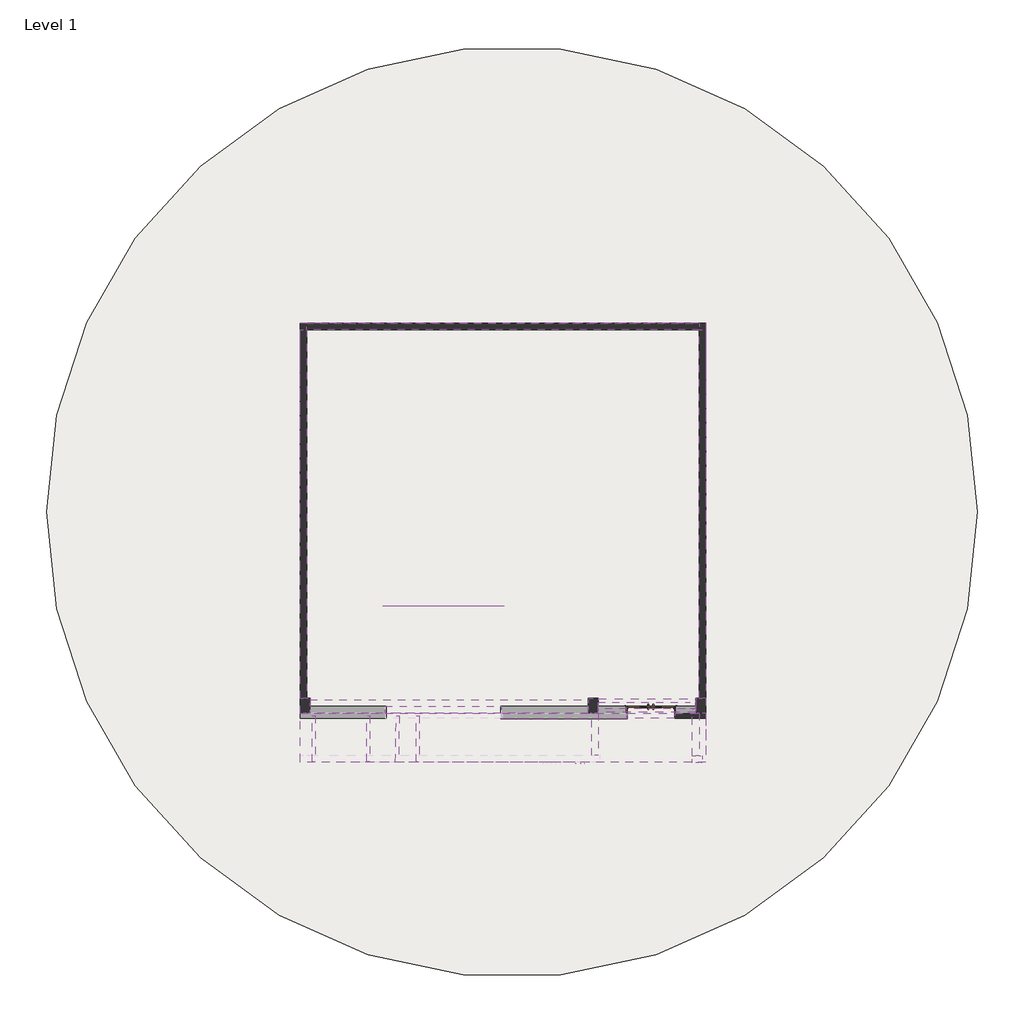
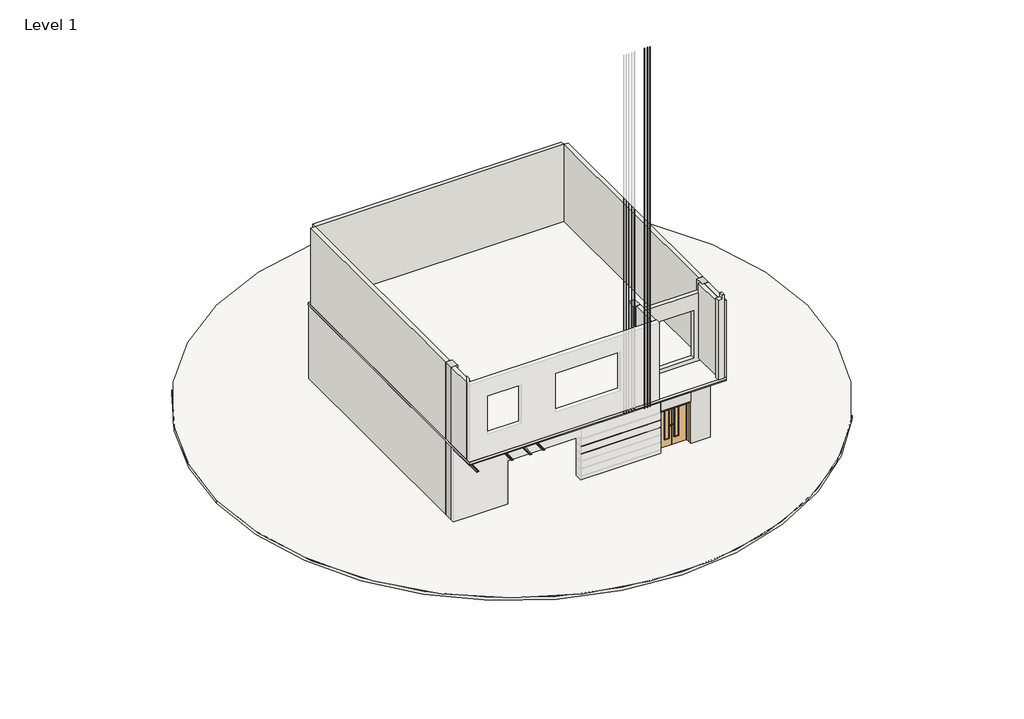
# One storey, part 3 of 3: 12 walls, 6 beams, 6 columns, 6 proxies, 5 slabs, 1 door.
"""IFC4 building model written with IfcOpenShell, lengths in millimetres."""

from ifc_helpers import new_model, si_unit, point, frame, frame_2d, origin, origin_with_axes, place, context, project, spatial, polyline, circle_curve, ellipse_curve, trimmed, segment, composite_curve, outline, extrude, faceted_brep, transform, mapped, element, save
from ifc_brep_helpers import plane_surface, cylinder_surface, advanced_brep
from components import bz1_m_profile_bz1_m_profile_bcb5b955, bz1_m_profile_bz1_m_profile_7d883e4c, bz1_m_profile_bz1_m_profile_355f199d, bz1_m_profile_bz1_m_profile_3dba807f, rear_bar_small_rear_bar_small_9124fe10, door_132_1510_x_2110mm_8a823f66

model = new_model("IFC4")

# Units and contexts
model_context = context("Model", 3, world=origin())
ifc_project = project(units=[si_unit("LENGTHUNIT", "METRE", prefix="MILLI")], contexts=[model_context])

# Site, building, storey
site = spatial("IfcSite", under=ifc_project)
building = spatial("IfcBuilding", under=site)
storey = spatial("IfcBuildingStorey", under=building, Name="Level 1", Elevation=0.0)

# Beams
placement = place(None, origin())
bz1_m_profile_bz1_m_profile_shape = bz1_m_profile_bz1_m_profile_bcb5b955(model_context)
element("IfcBeam", 1, ObjectType="BZ1-M_Profile : BZ1-M_Profile", at=placement, inside=storey, context=model_context, shape_type="MappedRepresentation", body=[
    mapped(bz1_m_profile_bz1_m_profile_shape, transform((-674.2634912, -5000.4302643, 3170.1338493), x_axis=(0.0, -1.0, 0.0), y_axis=(1.0, 0.0, 0.0), z_axis=(0.0, 0.0, 1.0))),
])
bz1_m_profile_bz1_m_profile_2_shape = bz1_m_profile_bz1_m_profile_7d883e4c(model_context)
element("IfcBeam", 2, ObjectType="BZ1-M_Profile : BZ1-M_Profile", at=placement, inside=storey, context=model_context, shape_type="MappedRepresentation", body=[
    mapped(bz1_m_profile_bz1_m_profile_2_shape, transform((-2158.1125588, -4997.9302643, 3170.1338493), x_axis=(0.0, -1.0, 0.0), y_axis=(1.0, 0.0, 0.0), z_axis=(0.0, 0.0, 1.0))),
])
bz1_m_profile_bz1_m_profile_3_shape = bz1_m_profile_bz1_m_profile_355f199d(model_context)
element("IfcBeam", 3, ObjectType="BZ1-M_Profile : BZ1-M_Profile", at=placement, inside=storey, context=model_context, shape_type="MappedRepresentation", body=[
    mapped(bz1_m_profile_bz1_m_profile_3_shape, transform((-1286.9224658, -4995.3255547, 3170.1338493), x_axis=(-0.0174524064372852, -0.9998476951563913, 0.0), y_axis=(0.9998476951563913, -0.0174524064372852, 0.0), z_axis=(0.0, 0.0, 1.0))),
])
bz1_m_profile_bz1_m_profile_4_shape = bz1_m_profile_bz1_m_profile_3dba807f(model_context)
element("IfcBeam", 4, ObjectType="BZ1-M_Profile : BZ1-M_Profile", at=placement, inside=storey, context=model_context, shape_type="MappedRepresentation", body=[
    mapped(bz1_m_profile_bz1_m_profile_4_shape, transform((-3799.9948265, -4957.9302643, 3170.1338493), x_axis=(0.0, -1.0, 0.0), y_axis=(1.0, 0.0, 0.0), z_axis=(0.0, 0.0, 1.0))),
])
element("IfcBeam", 5, ObjectType="M_Concrete-Rectangular Beam : 400 x 600mm", at=placement, inside=storey, context=model_context, shape_type="Brep", body=[
    faceted_brep([(4459.4333411, -4225.9647185, 3200.0), (4459.4333411, -4225.9647185, 3670.0), (-3910.5666589, -4225.9647185, 3670.0), (-3910.5666589, -4225.9647185, 3200.0), (4459.4333411, -3825.9647185, 3200.0), (4459.4333411, -4025.9647185, 3200.0), (-3910.5666589, -4025.9647185, 3200.0), (-3910.5666589, -3825.9647185, 3200.0), (4459.4333411, -3825.9647185, 3670.0), (-3910.5666589, -3825.9647185, 3670.0)], [[[0, 1, 2, 3]], [[4, 5, 0, 3, 6, 7]], [[8, 4, 7, 9]], [[1, 0, 5, 4, 8]], [[3, 2, 9, 7, 6]], [[2, 1, 8, 9]]]),
])
element("IfcBeam", 6, ObjectType="M_Concrete-Rectangular Beam : 400 x 600mm", at=placement, inside=storey, context=model_context, shape_type="Brep", body=[
    faceted_brep([(4759.4333411, -4200.9647185, 3200.0), (7689.4333411, -4200.9647185, 3200.0), (7689.4333411, -4200.9647185, 3670.0), (4759.4333411, -4200.9647185, 3670.0), (4759.4333411, -4025.9647185, 3200.0), (4759.4333411, -3800.9647185, 3200.0), (7689.4333411, -3800.9647185, 3200.0), (7689.4333411, -4025.9647185, 3200.0), (4759.4333411, -3800.9647185, 3670.0), (7689.4333411, -3800.9647185, 3670.0)], [[[0, 1, 2, 3]], [[0, 4, 5, 6, 7, 1]], [[6, 5, 8, 9]], [[5, 4, 0, 3, 8]], [[2, 1, 7, 6, 9]], [[3, 2, 9, 8]]]),
])

# Proxies
rear_bar_small_rear_bar_small_shape = rear_bar_small_rear_bar_small_9124fe10(model_context)
element("IfcBuildingElementProxy", 7, Name="Rear bar- Small : Rear bar - Small", ObjectType="Rear bar- Small : Rear bar - Small", at=placement, inside=storey, context=model_context, shape_type="MappedRepresentation", body=[
    mapped(rear_bar_small_rear_bar_small_shape, transform((1921.1333384, -1020.9647185, 2407.1365203), x_axis=(-1.0, 0.0, 0.0), y_axis=(0.0, 1.0, 0.0), z_axis=(0.0, 0.0, -1.0))),
])
element("IfcBuildingElementProxy", 8, Name="Reveal", ObjectType="Reveal", at=placement, inside=storey, context=model_context, shape_type="SweptSolid", body=[
    extrude(outline(composite_curve([segment(trimmed(circle_curve(frame_2d((4072.692605, -5750.9799478)), 8.0), [point((4072.692605, -5758.9799478))], [point((4072.692605, -5742.9799478))], False, "CARTESIAN"), True, "CONTINUOUS"), segment(trimmed(circle_curve(frame_2d((4072.692605, -5750.9799478)), 8.0), [point((4072.692605, -5742.9799478))], [point((4072.692605, -5758.9799478))], False, "CARTESIAN"), True, "CONTINUOUS")], self_intersect=False)), frame((0.0, 0.0, 3630.0), z_axis=(0.0, 0.0, 1.0), x_axis=(1.0, 0.0, 0.0)), (0.0, 0.0, 1.0), 18066.328216),
])
element("IfcBuildingElementProxy", 9, Name="Reveal", ObjectType="Reveal", at=placement, inside=storey, context=model_context, shape_type="SweptSolid", body=[
    extrude(outline(composite_curve([segment(trimmed(circle_curve(frame_2d((4219.7817397, -5750.9799478)), 8.0), [point((4219.7817397, -5758.9799478))], [point((4219.7817397, -5742.9799478))], False, "CARTESIAN"), True, "CONTINUOUS"), segment(trimmed(circle_curve(frame_2d((4219.7817397, -5750.9799478)), 8.0), [point((4219.7817397, -5742.9799478))], [point((4219.7817397, -5758.9799478))], False, "CARTESIAN"), True, "CONTINUOUS")], self_intersect=False)), frame((0.0, 0.0, 3630.0), z_axis=(0.0, 0.0, 1.0), x_axis=(1.0, 0.0, 0.0)), (0.0, 0.0, 1.0), 18066.328216),
])
element("IfcBuildingElementProxy", 10, Name="Reveal", ObjectType="Reveal", at=placement, inside=storey, context=model_context, shape_type="SweptSolid", body=[
    extrude(outline(composite_curve([segment(trimmed(circle_curve(frame_2d((4338.3531683, -5750.9799478)), 8.0), [point((4338.3531683, -5758.9799478))], [point((4338.3531683, -5742.9799478))], False, "CARTESIAN"), True, "CONTINUOUS"), segment(trimmed(circle_curve(frame_2d((4338.3531683, -5750.9799478)), 8.0), [point((4338.3531683, -5742.9799478))], [point((4338.3531683, -5758.9799478))], False, "CARTESIAN"), True, "CONTINUOUS")], self_intersect=False)), frame((0.0, 0.0, 3630.0), z_axis=(0.0, 0.0, 1.0), x_axis=(1.0, 0.0, 0.0)), (0.0, 0.0, 1.0), 18066.328216),
])
element("IfcBuildingElementProxy", 11, Name="Reveal", ObjectType="Reveal", at=placement, inside=storey, context=model_context, shape_type="AdvancedBrep", body=[
    advanced_brep(
    [(5634.5761983, -4225.9647185, 1301.5626843), (5618.5761983, -4225.9647185, 1301.5626843), (5634.5761983, -4395.9647185, 1301.5626843), (5618.5761983, -4379.9647185, 1301.5626843), (1826.4333411, -4395.9647185, 1301.5626843), (1842.4333411, -4379.9647185, 1301.5626843)],
    [
        (0, 1, circle_curve(frame((5626.5761983, -4225.9647185, 1301.5626843), z_axis=(0.0, 1.0, 0.0), x_axis=(-1.0, 0.0, 0.0)), 8.0)),
        (1, 0, circle_curve(frame((5626.5761983, -4225.9647185, 1301.5626843), z_axis=(0.0, 1.0, 0.0), x_axis=(-1.0, 0.0, 0.0)), 8.0)),
        (0, 2),
        (2, 3, ellipse_curve(frame((5626.5761983, -4387.9647185, 1301.5626843), z_axis=(0.7071067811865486, 0.7071067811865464, 0.0), x_axis=(-0.7071067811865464, 0.7071067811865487, 0.0)), 11.3137085, 8.0)),
        (3, 1),
        (3, 2, ellipse_curve(frame((5626.5761983, -4387.9647185, 1301.5626843), z_axis=(0.7071067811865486, 0.7071067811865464, 0.0), x_axis=(-0.7071067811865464, 0.7071067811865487, 0.0)), 11.3137085, 8.0)),
        (4, 5, ellipse_curve(frame((1834.4333411, -4387.9647185, 1301.5626843), z_axis=(-0.7071067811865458, 0.7071067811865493, 0.0), x_axis=(0.7071067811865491, 0.7071067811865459, 0.0)), 11.3137085, 8.0)),
        (5, 4, ellipse_curve(frame((1834.4333411, -4387.9647185, 1301.5626843), z_axis=(-0.7071067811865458, 0.7071067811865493, 0.0), x_axis=(0.7071067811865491, 0.7071067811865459, 0.0)), 11.3137085, 8.0)),
        (2, 4),
        (5, 3),
    ],
    [
        plane_surface(frame((5549.4333411, -4225.9647185, 0.0), z_axis=(0.0, 1.0, 0.0), x_axis=(1.0, 0.0, 0.0))),
        cylinder_surface(frame((5626.5761983, -4225.9647185, 1301.5626843), z_axis=(0.0, 1.0, 0.0), x_axis=(-1.0, 0.0, 0.0)), 8.0),
        plane_surface(frame((1834.4333411, -4387.9647185, 1605.3), z_axis=(-0.7071067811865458, 0.7071067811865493, 0.0), x_axis=(0.7071067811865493, 0.7071067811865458, 0.0))),
        cylinder_surface(frame((5626.5761983, -4387.9647185, 1301.5626843), z_axis=(1.0, 0.0, 0.0), x_axis=(0.0, 1.0, 0.0)), 8.0),
    ],
    [
        (0, [[1, 2]]),
        (1, [[-1, 3, 4, 5]]),
        (1, [[-2, -5, 6, -3]]),
        (2, [[7, 8]]),
        (3, [[-4, 9, -8, 10]]),
        (3, [[-6, -10, -7, -9]]),
    ],
),
])
element("IfcBuildingElementProxy", 12, Name="Reveal", ObjectType="Reveal", at=placement, inside=storey, context=model_context, shape_type="AdvancedBrep", body=[
    advanced_brep(
    [(5634.5761983, -4225.9647185, 1675.0626843), (5618.5761983, -4225.9647185, 1675.0626843), (5634.5761983, -4395.9647185, 1675.0626843), (5618.5761983, -4379.9647185, 1675.0626843), (1826.4333411, -4395.9647185, 1675.0626843), (1842.4333411, -4379.9647185, 1675.0626843)],
    [
        (0, 1, circle_curve(frame((5626.5761983, -4225.9647185, 1675.0626843), z_axis=(0.0, 1.0, 0.0), x_axis=(-1.0, 0.0, 0.0)), 8.0)),
        (1, 0, circle_curve(frame((5626.5761983, -4225.9647185, 1675.0626843), z_axis=(0.0, 1.0, 0.0), x_axis=(-1.0, 0.0, 0.0)), 8.0)),
        (0, 2),
        (2, 3, ellipse_curve(frame((5626.5761983, -4387.9647185, 1675.0626843), z_axis=(0.7071067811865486, 0.7071067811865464, 0.0), x_axis=(-0.7071067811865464, 0.7071067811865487, 0.0)), 11.3137085, 8.0)),
        (3, 1),
        (3, 2, ellipse_curve(frame((5626.5761983, -4387.9647185, 1675.0626843), z_axis=(0.7071067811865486, 0.7071067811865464, 0.0), x_axis=(-0.7071067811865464, 0.7071067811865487, 0.0)), 11.3137085, 8.0)),
        (4, 5, ellipse_curve(frame((1834.4333411, -4387.9647185, 1675.0626843), z_axis=(-0.7071067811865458, 0.7071067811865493, 0.0), x_axis=(0.7071067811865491, 0.7071067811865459, 0.0)), 11.3137085, 8.0)),
        (5, 4, ellipse_curve(frame((1834.4333411, -4387.9647185, 1675.0626843), z_axis=(-0.7071067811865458, 0.7071067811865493, 0.0), x_axis=(0.7071067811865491, 0.7071067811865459, 0.0)), 11.3137085, 8.0)),
        (2, 4),
        (5, 3),
    ],
    [
        plane_surface(frame((5549.4333411, -4225.9647185, 0.0), z_axis=(0.0, 1.0, 0.0), x_axis=(1.0, 0.0, 0.0))),
        cylinder_surface(frame((5626.5761983, -4225.9647185, 1675.0626843), z_axis=(0.0, 1.0, 0.0), x_axis=(-1.0, 0.0, 0.0)), 8.0),
        plane_surface(frame((1834.4333411, -4387.9647185, 1978.8), z_axis=(-0.7071067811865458, 0.7071067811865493, 0.0), x_axis=(0.7071067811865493, 0.7071067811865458, 0.0))),
        cylinder_surface(frame((5626.5761983, -4387.9647185, 1675.0626843), z_axis=(1.0, 0.0, 0.0), x_axis=(0.0, 1.0, 0.0)), 8.0),
    ],
    [
        (0, [[1, 2]]),
        (1, [[-1, 3, 4, 5]]),
        (1, [[-2, -5, 6, -3]]),
        (2, [[7, 8]]),
        (3, [[-4, 9, -8, 10]]),
        (3, [[-6, -10, -7, -9]]),
    ],
),
])

# Columns
element("IfcColumn", 13, ObjectType="M_Concrete-Rectangular-Column : 300 x 450mm", at=placement, inside=storey, context=model_context, shape_type="Brep", body=[
    faceted_brep([(4759.4333411, -3775.9647185, 3800.0), (4759.4333411, -3900.9647185, 3800.0), (4759.4333411, -4100.9647185, 3800.0), (4759.4333411, -4225.9647185, 3800.0), (4559.4333411, -4225.9647185, 3800.0), (4459.4333411, -4225.9647185, 3800.0), (4459.4333411, -3775.9647185, 3800.0), (4759.4333411, -3775.9647185, 7670.0), (4759.4333411, -4225.9647185, 7670.0), (4559.4333411, -4225.9647185, 7670.0), (4459.4333411, -4225.9647185, 7670.0), (4459.4333411, -3775.9647185, 7670.0)], [[[0, 1, 2, 3, 4, 5, 6]], [[7, 8, 3, 2, 1, 0]], [[8, 9, 10, 5, 4, 3]], [[10, 11, 6, 5]], [[11, 7, 0, 6]], [[7, 11, 10, 9, 8]]]),
])
element("IfcColumn", 14, ObjectType="M_Concrete-Rectangular-Column : 300 x 450mm", at=placement, inside=storey, context=model_context, shape_type="Brep", body=[
    faceted_brep([(-3910.5666589, -3775.9647185, 3800.0), (-3910.5666589, -4225.9647185, 3800.0), (-4010.5666589, -4225.9647185, 3800.0), (-4210.5666589, -4225.9647185, 3800.0), (-4210.5666589, -3775.9647185, 3800.0), (-4010.5666589, -3775.9647185, 3800.0), (-3910.5666589, -3775.9647185, 7670.0), (-3910.5666589, -3800.9647185, 7670.0), (-3910.5666589, -4200.9647185, 7670.0), (-3910.5666589, -4225.9647185, 7670.0), (-4010.5666589, -4225.9647185, 7670.0), (-4210.5666589, -4225.9647185, 7670.0), (-4210.5666589, -3775.9647185, 7670.0), (-4010.5666589, -3775.9647185, 7670.0)], [[[0, 1, 2, 3, 4, 5]], [[6, 7, 8, 9, 1, 0]], [[9, 10, 11, 3, 2, 1]], [[11, 12, 4, 3]], [[12, 13, 6, 0, 5, 4]], [[6, 13, 12, 11, 10, 9, 8, 7]]]),
])
element("IfcColumn", 15, ObjectType="M_Concrete-Rectangular-Column : 300 x 450mm", at=placement, inside=storey, context=model_context, shape_type="Brep", body=[
    faceted_brep([(7989.4333411, -3775.9647185, 3800.0), (7989.4333411, -4225.9647185, 3800.0), (7789.4333411, -4225.9647185, 3800.0), (7689.4333411, -4225.9647185, 3800.0), (7689.4333411, -4100.9647185, 3800.0), (7689.4333411, -3900.9647185, 3800.0), (7689.4333411, -3775.9647185, 3800.0), (7789.4333411, -3775.9647185, 3800.0), (7989.4333411, -3775.9647185, 7670.0), (7989.4333411, -4225.9647185, 7670.0), (7789.4333411, -4225.9647185, 7670.0), (7689.4333411, -4225.9647185, 7670.0), (7689.4333411, -4225.9647185, 3926.0608555), (7689.4333411, -4200.9647185, 7670.0), (7689.4333411, -4100.9647185, 7670.0), (7689.4333411, -3800.9647185, 7670.0), (7689.4333411, -3775.9647185, 7670.0), (7789.4333411, -3775.9647185, 7670.0)], [[[0, 1, 2, 3, 4, 5, 6, 7]], [[8, 9, 1, 0]], [[9, 10, 11, 12, 3, 2, 1]], [[11, 13, 14, 15, 16, 6, 5, 4, 3, 12]], [[16, 17, 8, 0, 7, 6]], [[8, 17, 16, 15, 14, 13, 11, 10, 9]]]),
])
element("IfcColumn", 16, ObjectType="M_Concrete-Rectangular-Column : 300 x 450mm", at=placement, inside=storey, context=model_context, shape_type="Brep", body=[
    faceted_brep([(4759.4333411, -3775.9647185, 0.0), (4759.4333411, -4025.9647185, 0.0), (4759.4333411, -4225.9647185, 0.0), (4459.4333411, -4225.9647185, 0.0), (4459.4333411, -4025.9647185, 0.0), (4459.4333411, -3775.9647185, 0.0), (4759.4333411, -3775.9647185, 3670.0), (4759.4333411, -4200.9647185, 3670.0), (4759.4333411, -4225.9647185, 3670.0), (4459.4333411, -4225.9647185, 3670.0), (4459.4333411, -4225.9647185, 3200.0), (4459.4333411, -3775.9647185, 3670.0)], [[[0, 1, 2, 3, 4, 5]], [[6, 7, 8, 2, 1, 0]], [[8, 9, 10, 3, 2]], [[9, 11, 5, 4, 3, 10]], [[11, 6, 0, 5]], [[6, 11, 9, 8, 7]]]),
])
element("IfcColumn", 17, ObjectType="M_Concrete-Rectangular-Column : 300 x 450mm", at=placement, inside=storey, context=model_context, shape_type="Brep", body=[
    faceted_brep([(-3910.5666589, -3775.9647185, 0.0), (-3910.5666589, -4025.9647185, 0.0), (-3910.5666589, -4225.9647185, 0.0), (-4210.5666589, -4225.9647185, 0.0), (-4210.5666589, -3775.9647185, 0.0), (-4010.5666589, -3775.9647185, 0.0), (-3910.5666589, -3775.9647185, 3670.0), (-3910.5666589, -3825.9647185, 3670.0), (-3910.5666589, -4225.9647185, 3670.0), (-3910.5666589, -4225.9647185, 3200.0), (-4210.5666589, -4225.9647185, 3670.0), (-4210.5666589, -3775.9647185, 3670.0), (-4010.5666589, -3775.9647185, 3670.0)], [[[0, 1, 2, 3, 4, 5]], [[6, 7, 8, 9, 2, 1, 0]], [[8, 10, 3, 2, 9]], [[10, 11, 4, 3]], [[11, 12, 6, 0, 5, 4]], [[6, 12, 11, 10, 8, 7]]]),
])
element("IfcColumn", 18, ObjectType="M_Concrete-Rectangular-Column : 300 x 450mm", at=placement, inside=storey, context=model_context, shape_type="Brep", body=[
    faceted_brep([(7989.4333411, -3775.9647185, 0.0), (7989.4333411, -4225.9647185, 0.0), (7689.4333411, -4225.9647185, 0.0), (7689.4333411, -4025.9647185, 0.0), (7689.4333411, -3775.9647185, 0.0), (7789.4333411, -3775.9647185, 0.0), (7989.4333411, -3775.9647185, 3670.0), (7989.4333411, -4225.9647185, 3670.0), (7689.4333411, -4225.9647185, 3670.0), (7689.4333411, -4200.9647185, 3670.0), (7689.4333411, -3800.9647185, 3670.0), (7689.4333411, -3775.9647185, 3670.0), (7789.4333411, -3775.9647185, 3670.0)], [[[0, 1, 2, 3, 4, 5]], [[6, 7, 1, 0]], [[7, 8, 2, 1]], [[8, 9, 10, 11, 4, 3, 2]], [[11, 12, 6, 0, 5, 4]], [[6, 12, 11, 10, 9, 8, 7]]]),
])

# Door
door_132_1510_x_2110mm_shape = door_132_1510_x_2110mm_8a823f66(model_context)
element("IfcDoor", 19, ObjectType="Door (132) : 1510 x 2110mm", at=placement, inside=storey, context=model_context, shape_type="MappedRepresentation", body=[
    mapped(door_132_1510_x_2110mm_shape, transform((6339.4333411, -4125.9647185, 0.0), x_axis=(1.0, 0.0, 0.0), y_axis=(0.0, 1.0, 0.0), z_axis=(0.0, 0.0, 1.0))),
])

# Slabs
element("IfcSlab", 20, ObjectType="BZ1_FNSH_White stucoo_3cm", at=placement, inside=storey, context=model_context, shape_type="Brep", body=[
    faceted_brep([(-4210.5666589, -4225.9647185, 3630.0), (-1635.5666589, -4225.9647185, 3630.0), (1864.4333411, -4225.9647185, 3630.0), (5626.5761983, -4225.9647185, 3630.0), (7059.4333411, -4225.9647185, 3630.0), (7989.4333411, -4225.9647185, 3630.0), (7989.4333411, -4387.9647185, 3630.0), (7989.4333411, -5700.9647185, 3630.0), (4474.4333411, -5700.9647185, 3630.0), (2939.4333411, -5700.9647185, 3630.0), (-4210.5666589, -5700.9647185, 3630.0), (-4210.5666589, -4225.9647185, 3670.0), (-4210.5666589, -5700.9647185, 3670.0), (7989.4333411, -5700.9647185, 3670.0), (7989.4333411, -4225.9647185, 3670.0)], [[[0, 1, 2, 3, 4, 5, 6, 7, 8, 9, 10]], [[11, 12, 13, 14]], [[5, 4, 3, 2, 1, 0, 11, 14]], [[7, 6, 5, 14, 13]], [[10, 9, 8, 7, 13, 12]], [[0, 10, 12, 11]]]),
])
element("IfcSlab", 21, ObjectType="BZ1_FNSH_White stucoo_3cm", at=placement, inside=storey, context=model_context, shape_type="SweptSolid", body=[
    extrude(outline(polyline([(5626.5761983, -4225.9647185), (7059.4333411, -4225.9647185), (7059.4333411, -4387.9647185), (5626.5761983, -4387.9647185), (5626.5761983, -4225.9647185)])), frame((0.0, 0.0, 2070.0), z_axis=(0.0, 0.0, 1.0), x_axis=(1.0, 0.0, 0.0)), (0.0, 0.0, 1.0), 40.0),
])
element("IfcSlab", 22, ObjectType="BZ1_FNSH_White stucoo_3cm", at=placement, inside=storey, context=model_context, shape_type="Brep", body=[
    faceted_brep([(-1650.5666589, -4025.9647185, 2160.0), (1834.4333411, -4025.9647185, 2160.0), (1834.4333411, -4225.9647185, 2160.0), (-1620.5666589, -4225.9647185, 2160.0), (-1650.5666589, -4225.9647185, 2160.0), (-1650.5666589, -4025.9647185, 2200.0), (-1650.5666589, -4225.9647185, 2200.0), (1834.4333411, -4225.9647185, 2200.0), (1834.4333411, -4025.9647185, 2200.0)], [[[0, 1, 2, 3, 4]], [[5, 6, 7, 8]], [[1, 0, 5, 8]], [[2, 1, 8, 7]], [[4, 3, 2, 7, 6]], [[0, 4, 6, 5]]]),
])
element("IfcSlab", 23, ObjectType="BZ1_Slab_Concrete_130", at=placement, inside=storey, context=model_context, shape_type="Brep", body=[
    faceted_brep([(7989.4333411, -5700.9647185, 3670.0), (-4210.5666589, -5700.9647185, 3670.0), (-4210.5666589, 7514.0352815, 3670.0), (7989.4333411, 7514.0352815, 3670.0), (7989.4333411, -5700.9647185, 3800.0), (7989.4333411, -4225.9647185, 3800.0), (7989.4333411, -3775.9647185, 3800.0), (7989.4333411, 7514.0352815, 3800.0), (-4210.5666589, 7514.0352815, 3800.0), (-4210.5666589, -3775.9647185, 3800.0), (-4210.5666589, -4225.9647185, 3800.0), (-4210.5666589, -5700.9647185, 3800.0)], [[[0, 1, 2, 3]], [[4, 5, 6, 7, 8, 9, 10, 11]], [[1, 0, 4, 11]], [[2, 1, 11, 10, 9, 8]], [[3, 2, 8, 7]], [[0, 3, 7, 6, 5, 4]]]),
])
element("IfcSlab", 24, ObjectType="Generic 150mm", at=placement, inside=storey, context=model_context, shape_type="SweptSolid", body=[
    extrude(outline(composite_curve([segment(trimmed(circle_curve(frame_2d((2163.0728689, 1820.5643673)), 14000.0), [point((-11836.9271311, 1820.5643673))], [point((16163.0728689, 1820.5643673))], False, "CARTESIAN"), True, "CONTINUOUS"), segment(trimmed(circle_curve(frame_2d((2163.0728689, 1820.5643673)), 14000.0), [point((16163.0728689, 1820.5643673))], [point((-11836.9271311, 1820.5643673))], False, "CARTESIAN"), True, "CONTINUOUS")], self_intersect=False)), frame((0.0, 0.0, -150.0), z_axis=(0.0, 0.0, 1.0), x_axis=(1.0, 0.0, 0.0)), (0.0, 0.0, 1.0), 150.0),
])

# Walls
element("IfcWall", 25, ObjectType="BZ1_fnsh_EIFS-16cm", at=placement, inside=storey, context=model_context, shape_type="Brep", body=[
    faceted_brep([(7989.4333411, -4225.9647185, 0.0), (7059.4333411, -4225.9647185, 0.0), (7059.4333411, -4225.9647185, 2070.0), (7059.4333411, -4225.9647185, 2110.0), (7059.4333411, -4225.9647185, 3630.0), (7989.4333411, -4225.9647185, 3630.0), (7059.4333411, -4387.9647185, 0.0), (7989.4333411, -4387.9647185, 0.0), (7989.4333411, -4387.9647185, 3630.0), (7059.4333411, -4387.9647185, 3630.0), (7059.4333411, -4387.9647185, 2110.0), (7059.4333411, -4387.9647185, 2070.0)], [[[0, 1, 2, 3, 4, 5]], [[6, 7, 8, 9, 10, 11]], [[1, 0, 7, 6]], [[1, 6, 11, 10, 9, 4, 3, 2]], [[7, 0, 5, 8]], [[5, 4, 9, 8]]]),
])
element("IfcWall", 26, ObjectType="BZ1_fnsh_EIFS-16cm", at=placement, inside=storey, context=model_context, shape_type="SweptSolid", body=[
    extrude(outline(polyline([(5626.5761983, -4225.9647185), (7059.4333411, -4225.9647185), (7059.4333411, -4387.9647185), (5626.5761983, -4387.9647185), (5626.5761983, -4225.9647185)])), frame((0.0, 0.0, 2110.0), z_axis=(0.0, 0.0, 1.0), x_axis=(1.0, 0.0, 0.0)), (0.0, 0.0, 1.0), 1520.0),
])
element("IfcWall", 27, ObjectType="BZ1-Core-Block-20cm", at=placement, inside=storey, context=model_context, shape_type="Brep", body=[
    faceted_brep([(-4010.5666589, -5500.9647185, 7670.0), (-4010.5666589, -5500.9647185, 3800.0), (-4010.5666589, -4225.9647185, 3800.0), (-4010.5666589, -4225.9647185, 7670.0), (-4210.5666589, -5500.9647185, 3800.0), (-4210.5666589, -5500.9647185, 7670.0), (-4210.5666589, -4225.9647185, 7670.0), (-4210.5666589, -4225.9647185, 3800.0), (-4200.5666589, -5500.9647185, 7670.0)], [[[0, 1, 2, 3]], [[4, 5, 6, 7]], [[1, 4, 7, 2]], [[3, 2, 7, 6]], [[4, 1, 0, 8, 5]], [[5, 8, 0, 3, 6]]]),
    faceted_brep([(-4010.5666589, 7299.0352815, 3800.0), (-4010.5666589, 7299.0352815, 4000.0), (-4010.5666589, 7299.0352815, 7180.0), (-4010.5666589, 7299.0352815, 7670.0), (-4010.5666589, -3775.9647185, 7670.0), (-4010.5666589, -3775.9647185, 7180.0), (-4010.5666589, -3775.9647185, 4000.0), (-4010.5666589, -3775.9647185, 3800.0), (-4210.5666589, 7299.0352815, 7670.0), (-4210.5666589, 7299.0352815, 3800.0), (-4210.5666589, -3775.9647185, 3800.0), (-4210.5666589, -3775.9647185, 7670.0)], [[[0, 1, 2, 3, 4, 5, 6, 7]], [[8, 9, 10, 11]], [[9, 0, 7, 10]], [[7, 6, 5, 4, 11, 10]], [[0, 9, 8, 3, 2, 1]], [[3, 8, 11, 4]]]),
])
element("IfcWall", 28, ObjectType="BZ1-Core-Block-20cm", at=placement, inside=storey, context=model_context, shape_type="SweptSolid", body=[
    extrude(outline(polyline([(-4010.5666589, 7499.0352815), (7789.4333411, 7499.0352815), (7789.4333411, 7299.0352815), (-4010.5666589, 7299.0352815), (-4010.5666589, 7499.0352815)])), frame((0.0, 0.0, 3800.0), z_axis=(0.0, 0.0, 1.0), x_axis=(1.0, 0.0, 0.0)), (0.0, 0.0, 1.0), 3870.0),
])
element("IfcWall", 29, ObjectType="BZ1-Core-Block-20cm", at=placement, inside=storey, context=model_context, shape_type="Brep", body=[
    faceted_brep([(-4010.5666589, 7499.0352815, 0.0), (-4010.5666589, 7499.0352815, 3670.0), (-4010.5666589, 7299.0352815, 3670.0), (-4010.5666589, -3775.9647185, 3670.0), (-4010.5666589, -3775.9647185, 0.0), (-4010.5666589, 7299.0352815, 0.0), (-4210.5666589, 7499.0352815, 3670.0), (-4210.5666589, 7499.0352815, 0.0), (-4210.5666589, -3775.9647185, 0.0), (-4210.5666589, -3775.9647185, 3670.0)], [[[0, 1, 2, 3, 4, 5]], [[6, 7, 8, 9]], [[7, 0, 5, 4, 8]], [[1, 6, 9, 3, 2]], [[4, 3, 9, 8]], [[0, 7, 6, 1]]]),
])
element("IfcWall", 30, ObjectType="BZ1-Core-Block-20cm", at=placement, inside=storey, context=model_context, shape_type="Brep", body=[
    faceted_brep([(7989.4333411, 7499.0352815, 0.0), (7989.4333411, 7499.0352815, 3670.0), (7989.4333411, -3775.9647185, 3670.0), (7989.4333411, -3775.9647185, 0.0), (7789.4333411, 7499.0352815, 3670.0), (7789.4333411, 7499.0352815, 0.0), (7789.4333411, 7299.0352815, 0.0), (7789.4333411, -3775.9647185, 0.0), (7789.4333411, -3775.9647185, 3670.0), (7789.4333411, 7299.0352815, 3670.0)], [[[0, 1, 2, 3]], [[4, 5, 6, 7, 8, 9]], [[5, 0, 3, 7, 6]], [[1, 4, 9, 8, 2]], [[3, 2, 8, 7]], [[0, 5, 4, 1]]]),
])
element("IfcWall", 31, ObjectType="BZ1-Core-Block-20cm", at=placement, inside=storey, context=model_context, shape_type="SweptSolid", body=[
    extrude(outline(polyline([(-4010.5666589, 7499.0352815), (7789.4333411, 7499.0352815), (7789.4333411, 7299.0352815), (-4010.5666589, 7299.0352815), (-4010.5666589, 7499.0352815)])), origin_with_axes(), (0.0, 0.0, 1.0), 3670.0),
])
element("IfcWall", 32, ObjectType="BZ1-Core-Block-20cm", at=placement, inside=storey, context=model_context, shape_type="Brep", body=[
    faceted_brep([(4759.4333411, -5500.9647185, 7670.0), (4759.4333411, -5500.9647185, 3800.0), (4759.4333411, -4225.9647185, 3800.0), (4759.4333411, -4225.9647185, 7670.0), (4559.4333411, -5500.9647185, 3800.0), (4559.4333411, -5500.9647185, 7670.0), (4559.4333411, -4225.9647185, 7670.0), (4559.4333411, -4225.9647185, 7300.0), (4559.4333411, -4225.9647185, 4000.0), (4559.4333411, -4225.9647185, 3800.0)], [[[0, 1, 2, 3]], [[4, 5, 6, 7, 8, 9]], [[1, 4, 9, 2]], [[5, 0, 3, 6]], [[3, 2, 9, 8, 7, 6]], [[1, 0, 5, 4]]]),
])
element("IfcWall", 33, ObjectType="BZ1-Core-Block-20cm", at=placement, inside=storey, context=model_context, shape_type="Brep", body=[
    faceted_brep([(4759.4333411, -4100.9647185, 3800.0), (7689.4333411, -4100.9647185, 3800.0), (7689.4333411, -4100.9647185, 3926.0608555), (7689.4333411, -4100.9647185, 7200.0), (4759.4333411, -4100.9647185, 7200.0), (5174.4333411, -4100.9647185, 4000.0), (5174.4333411, -4100.9647185, 6400.0), (7374.4333411, -4100.9647185, 6400.0), (7374.4333411, -4100.9647185, 4000.0), (7689.4333411, -3900.9647185, 3800.0), (4759.4333411, -3900.9647185, 3800.0), (4759.4333411, -3900.9647185, 7200.0), (7689.4333411, -3900.9647185, 7200.0), (7689.4333411, -3900.9647185, 4000.0), (5174.4333411, -3900.9647185, 6400.0), (5174.4333411, -3900.9647185, 4000.0), (7374.4333411, -3900.9647185, 4000.0), (7374.4333411, -3900.9647185, 6400.0)], [[[0, 1, 2, 3, 4], [5, 6, 7, 8]], [[9, 10, 11, 12, 13], [14, 15, 16, 17]], [[9, 1, 0, 10]], [[5, 15, 14, 6]], [[6, 14, 17, 7]], [[16, 8, 7, 17]], [[15, 5, 8, 16]], [[1, 9, 13, 12, 3, 2]], [[10, 0, 4, 11]], [[4, 3, 12, 11]]]),
])
element("IfcWall", 34, ObjectType="BZ1-Core-Block-20cm", at=placement, inside=storey, context=model_context, shape_type="Brep", body=[
    faceted_brep([(7989.4333411, 7299.0352815, 3800.0), (7989.4333411, 7299.0352815, 7670.0), (7989.4333411, -3775.9647185, 7670.0), (7989.4333411, -3775.9647185, 3800.0), (7789.4333411, 7299.0352815, 7670.0), (7789.4333411, 7299.0352815, 3800.0), (7789.4333411, -3775.9647185, 3800.0), (7789.4333411, -3775.9647185, 7670.0)], [[[0, 1, 2, 3]], [[4, 5, 6, 7]], [[5, 0, 3, 6]], [[1, 4, 7, 2]], [[3, 2, 7, 6]], [[0, 5, 4, 1]]]),
    faceted_brep([(7989.4333411, -5700.9647185, 7670.0), (7989.4333411, -5700.9647185, 3800.0), (7989.4333411, -4225.9647185, 3800.0), (7989.4333411, -4225.9647185, 7670.0), (7789.4333411, -5700.9647185, 3800.0), (7789.4333411, -5700.9647185, 7670.0), (7789.4333411, -5515.9647185, 7670.0), (7789.4333411, -4225.9647185, 7670.0), (7789.4333411, -4225.9647185, 3926.0608555), (7789.4333411, -4225.9647185, 3800.0)], [[[0, 1, 2, 3]], [[4, 5, 6, 7, 8, 9]], [[1, 4, 9, 2]], [[5, 0, 3, 7, 6]], [[3, 2, 9, 8, 7]], [[4, 1, 0, 5]]]),
])
element("IfcWall", 35, ObjectType="BZ1-Core-Block-20cm", at=placement, inside=storey, context=model_context, shape_type="Brep", body=[
    faceted_brep([(7889.4333411, -5515.9647185, 3800.0), (7589.4333411, -5515.9647185, 3800.0), (7589.4333411, -5515.9647185, 3926.0608555), (7589.4333411, -5515.9647185, 7670.0), (7589.4333411, -5515.9647185, 7800.0), (7789.4333411, -5515.9647185, 7800.0), (7789.4333411, -5515.9647185, 8000.0), (7889.4333411, -5515.9647185, 8000.0), (7889.4333411, -5715.9647185, 3800.0), (7889.4333411, -5715.9647185, 8000.0), (7789.4333411, -5715.9647185, 8000.0), (7789.4333411, -5715.9647185, 7800.0), (7589.4333411, -5715.9647185, 7800.0), (7589.4333411, -5715.9647185, 3800.0)], [[[0, 1, 2, 3, 4, 5, 6, 7]], [[8, 9, 10, 11, 12, 13]], [[1, 0, 8, 13]], [[7, 6, 10, 9]], [[0, 7, 9, 8]], [[11, 5, 4, 12]], [[4, 3, 2, 1, 13, 12]], [[6, 5, 11, 10]]]),
])
element("IfcWall", 36, ObjectType="BZ1-Core-Block-20cm", at=placement, inside=storey, context=model_context, shape_type="Brep", body=[
    faceted_brep([(7789.4333411, -5515.9647185, 7670.0), (7789.4333411, -5515.9647185, 3926.0608555), (7789.4333411, -4225.9647185, 3926.0608555), (7789.4333411, -4225.9647185, 7670.0), (7589.4333411, -4100.9647185, 3926.0608555), (7589.4333411, -5515.9647185, 3926.0608555), (7589.4333411, -5515.9647185, 7670.0), (7589.4333411, -4100.9647185, 7670.0), (7589.4333411, -4100.9647185, 6820.0), (7589.4333411, -4100.9647185, 4000.0), (7689.4333411, -4100.9647185, 3926.0608555), (7689.4333411, -4225.9647185, 3926.0608555), (7689.4333411, -4225.9647185, 7670.0), (7689.4333411, -4100.9647185, 7670.0), (7689.4333411, -4100.9647185, 7200.0)], [[[0, 1, 2, 3]], [[4, 5, 6, 7, 8, 9]], [[5, 4, 10, 11, 2, 1]], [[7, 6, 0, 3, 12, 13]], [[11, 12, 3, 2]], [[12, 11, 10, 14, 13]], [[4, 9, 8, 7, 13, 14, 10]], [[5, 1, 0, 6]]]),
])

save(model, "model.ifc")
